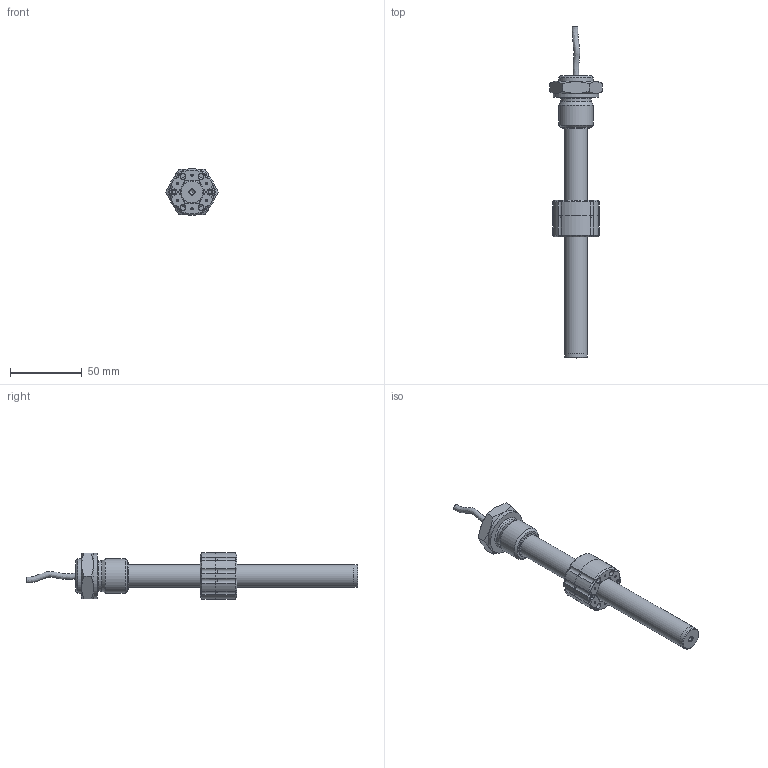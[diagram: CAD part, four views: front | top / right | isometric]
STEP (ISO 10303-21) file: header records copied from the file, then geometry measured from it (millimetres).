
FILE_DESCRIPTION (( 'STEP AP214' ), '1' );
FILE_NAME ('HEM16 extern flange.STEP', '2019-04-24T13:25:14', ( '' ), ( '' ), 'SwSTEP 2.0', 'SolidWorks 2017', '' );
FILE_SCHEMA (( 'AUTOMOTIVE_DESIGN' ));
Length unit declared in the file: millimetre
Products named in the file (11): PMEV2 cable1; MIM803X_MIM803; HEM16 extern flange; TAP002X; TUB861X; INS003X; CUS852X; CUS853X; NIP002X; PCUR032X; PUN011X
Assembly tree (12 placements, depth 3):
  HEM16 extern flange
    TUB861X
    TAP002X
    NIP002X
    PUN011X
    PMEV2 cable1
    PCUR032X
      CUS852X
      INS003X  x2
      MIM803X_MIM803  x2
      CUS853X
Bounding box: 36.95 x 231.7 x 32.8 mm (x, y, z)
Volume: 42694 mm3; surface area: 35982.1 mm2
Topology: 11 solids, 11 shells, 540 faces, 1177 edges, 683 vertices
Faces by surface type: cylinder 223, cone 219, plane 92, torus 5, bspline 1
Full cylindrical faces by diameter (mm): 1.5 x12, 1.7 x8, 2.05 x2, 2.5 x90, 2.6 x4, 3.3 x1, 3.9 x2, 4.1 x8, 4.2 x3, 4.5 x4, 4.6 x2, 12.8 x1, 12.93 x1, 13 x1, 14 x1, 16 x5, 16.2 x1, 18.2 x1, 21 x1, 24 x2, 31.5 x1
Entity records: 10584 total; most frequent: CARTESIAN_POINT 2086, DIRECTION 1874, ORIENTED_EDGE 1280, AXIS2_PLACEMENT_3D 878, EDGE_LOOP 678, EDGE_CURVE 640, VERTEX_POINT 502, FACE_OUTER_BOUND 495
